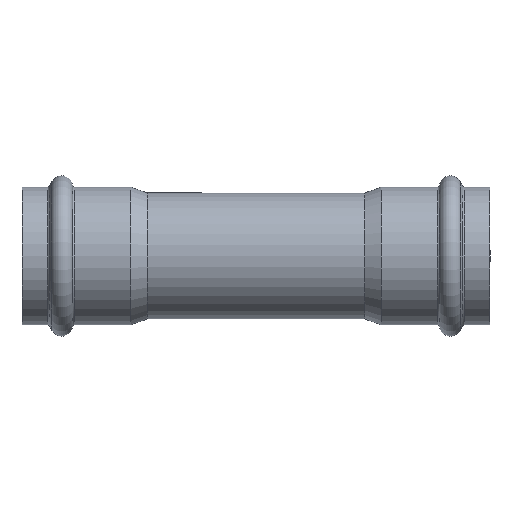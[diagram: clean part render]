
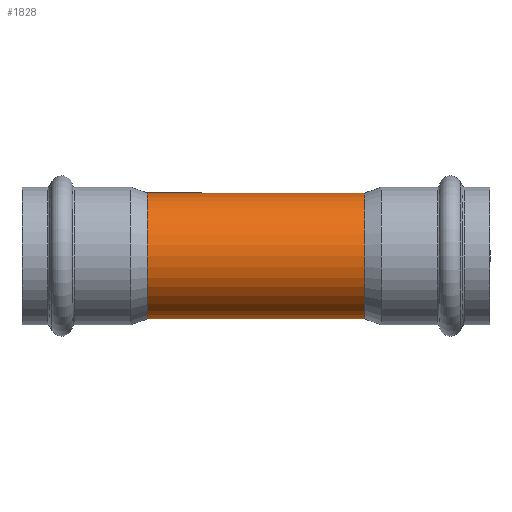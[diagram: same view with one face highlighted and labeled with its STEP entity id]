
A CAD part, front view. The second image highlights one B-rep face of the part: STEP entity #1828.
In plain terms, the highlighted cylindrical face has radius 17.5 mm (diameter 35 mm), a full revolution.
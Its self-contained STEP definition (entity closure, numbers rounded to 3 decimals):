
#1661=CARTESIAN_POINT('',(0.,13.319,-11.351));
#1662=VERTEX_POINT('',#1661);
#1724=CARTESIAN_POINT('',(0.,13.319,-11.351));
#1725=CARTESIAN_POINT('',(-0.924,13.319,-11.351));
#1726=CARTESIAN_POINT('',(-2.309,13.453,-11.198));
#1727=CARTESIAN_POINT('',(-4.048,13.843,-10.711));
#1728=CARTESIAN_POINT('',(-5.686,14.333,-10.058));
#1729=CARTESIAN_POINT('',(-7.184,14.934,-9.158));
#1730=CARTESIAN_POINT('',(-8.479,15.542,-8.063));
#1731=CARTESIAN_POINT('',(-9.358,15.988,-7.142));
#1732=CARTESIAN_POINT('',(-10.133,16.407,-6.123));
#1733=CARTESIAN_POINT('',(-11.006,16.901,-4.66));
#1734=CARTESIAN_POINT('',(-11.786,17.368,-2.62));
#1735=CARTESIAN_POINT('',(-12.107,17.566,0.002));
#1736=CARTESIAN_POINT('',(-11.821,17.389,2.332));
#1737=CARTESIAN_POINT('',(-11.172,17.,4.26));
#1738=CARTESIAN_POINT('',(-10.115,16.39,6.287));
#1739=CARTESIAN_POINT('',(-8.62,15.589,8.03));
#1740=CARTESIAN_POINT('',(-6.808,14.777,9.396));
#1741=CARTESIAN_POINT('',(-5.283,14.203,10.238));
#1742=CARTESIAN_POINT('',(-3.627,13.724,10.865));
#1743=CARTESIAN_POINT('',(-1.844,13.396,11.262));
#1744=CARTESIAN_POINT('',(0.003,13.28,11.396));
#1745=CARTESIAN_POINT('',(1.851,13.397,11.261));
#1746=CARTESIAN_POINT('',(3.633,13.725,10.863));
#1747=CARTESIAN_POINT('',(5.289,14.204,10.235));
#1748=CARTESIAN_POINT('',(6.818,14.781,9.39));
#1749=CARTESIAN_POINT('',(7.954,15.291,8.53));
#1750=CARTESIAN_POINT('',(8.775,15.692,7.757));
#1751=CARTESIAN_POINT('',(9.543,16.085,6.921));
#1752=CARTESIAN_POINT('',(10.214,16.452,6.003));
#1753=CARTESIAN_POINT('',(10.777,16.772,5.016));
#1754=CARTESIAN_POINT('',(11.268,17.058,3.976));
#1755=CARTESIAN_POINT('',(11.729,17.334,2.6));
#1756=CARTESIAN_POINT('',(12.012,17.507,0.875));
#1757=CARTESIAN_POINT('',(12.011,17.507,-0.884));
#1758=CARTESIAN_POINT('',(11.727,17.333,-2.609));
#1759=CARTESIAN_POINT('',(11.171,16.999,-4.262));
#1760=CARTESIAN_POINT('',(10.379,16.542,-5.779));
#1761=CARTESIAN_POINT('',(9.45,16.035,-7.047));
#1762=CARTESIAN_POINT('',(8.47,15.537,-8.072));
#1763=CARTESIAN_POINT('',(7.174,14.93,-9.165));
#1764=CARTESIAN_POINT('',(5.683,14.332,-10.059));
#1765=CARTESIAN_POINT('',(4.045,13.842,-10.712));
#1766=CARTESIAN_POINT('',(2.309,13.453,-11.198));
#1767=CARTESIAN_POINT('',(0.924,13.319,-11.351));
#1768=CARTESIAN_POINT('',(0.,13.319,-11.351));
#1769=CARTESIAN_POINT('',(0.,13.319,-11.351));
#1770=CARTESIAN_POINT('',(0.,13.319,-11.351));
#1771=CARTESIAN_POINT('',(0.,13.319,-11.351));
#1772=B_SPLINE_CURVE_WITH_KNOTS('',3,(#1724,#1725,#1726,#1727,#1728,#1729,#1730,#1731,#1732,#1733,#1734,#1735,#1736,#1737,#1738,#1739,#1740,#1741,#1742,#1743,#1744,#1745,#1746,#1747,#1748,#1749,#1750,#1751,#1752,#1753,#1754,#1755,#1756,#1757,#1758,#1759,#1760,#1761,#1762,#1763,#1764,#1765,#1766,#1767,#1768,#1769,#1770,#1771),.UNSPECIFIED.,.T.,.U.,(4,1,1,1,1,1,1,1,1,1,1,1,1,1,1,1,1,1,1,1,1,1,1,1,1,1,1,1,1,1,1,1,1,1,1,1,1,1,1,1,1,1,3,4),(-6.866,-6.621,-6.498,-6.375,-6.13,-6.008,-5.885,-5.762,-5.64,-5.395,-5.149,-4.904,-4.741,-4.577,-4.25,-4.087,-3.923,-3.76,-3.596,-3.433,-3.269,-3.106,-2.943,-2.779,-2.616,-2.534,-2.452,-2.289,-2.207,-2.125,-1.962,-1.798,-1.635,-1.471,-1.308,-1.144,-0.981,-0.858,-0.736,-0.49,-0.368,-0.245,0.0,0.),.UNSPECIFIED.);
#1773=EDGE_CURVE('',#1662,#1662,#1772,.T.);
#1798=CARTESIAN_POINT('',(15.135,0.,0.0));
#1799=DIRECTION('',(1.0,0.,0.0));
#1800=DIRECTION('',(0.0,1.0,0.0));
#1801=AXIS2_PLACEMENT_3D('',#1798,#1799,#1800);
#1802=CYLINDRICAL_SURFACE('',#1801,17.5);
#1803=CARTESIAN_POINT('',(30.271,17.5,0.0));
#1804=VERTEX_POINT('',#1803);
#1805=CARTESIAN_POINT('',(30.271,0.,0.0));
#1806=DIRECTION('',(1.0,0.0,0.0));
#1807=DIRECTION('',(0.0,1.0,0.0));
#1808=AXIS2_PLACEMENT_3D('',#1805,#1806,#1807);
#1809=CIRCLE('',#1808,17.5);
#1810=EDGE_CURVE('',#1804,#1804,#1809,.T.);
#1811=ORIENTED_EDGE('',*,*,#1810,.F.);
#1812=EDGE_LOOP('',(#1811));
#1813=FACE_OUTER_BOUND('',#1812,.T.);
#1814=CARTESIAN_POINT('',(-30.271,17.5,0.0));
#1815=VERTEX_POINT('',#1814);
#1816=CARTESIAN_POINT('',(-30.271,0.,0.0));
#1817=DIRECTION('',(1.0,0.0,0.0));
#1818=DIRECTION('',(0.0,1.0,0.0));
#1819=AXIS2_PLACEMENT_3D('',#1816,#1817,#1818);
#1820=CIRCLE('',#1819,17.5);
#1821=EDGE_CURVE('',#1815,#1815,#1820,.T.);
#1822=ORIENTED_EDGE('',*,*,#1821,.T.);
#1823=EDGE_LOOP('',(#1822));
#1824=FACE_BOUND('',#1823,.T.);
#1825=ORIENTED_EDGE('',*,*,#1773,.F.);
#1826=EDGE_LOOP('',(#1825));
#1827=FACE_BOUND('',#1826,.T.);
#1828=ADVANCED_FACE('',(#1813,#1824,#1827),#1802,.T.);
